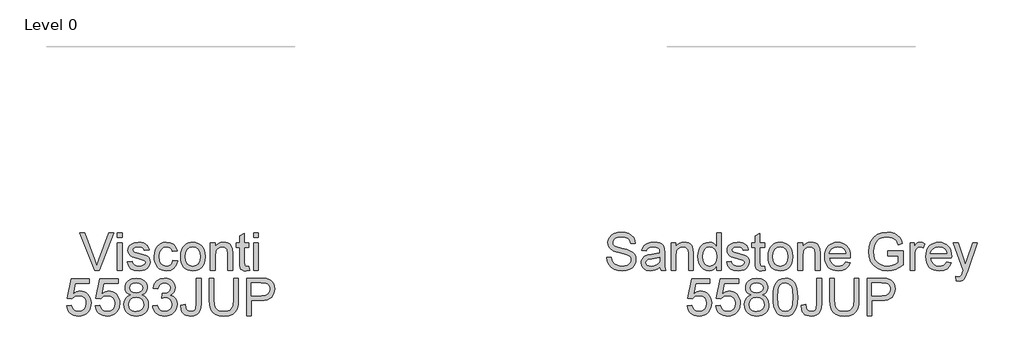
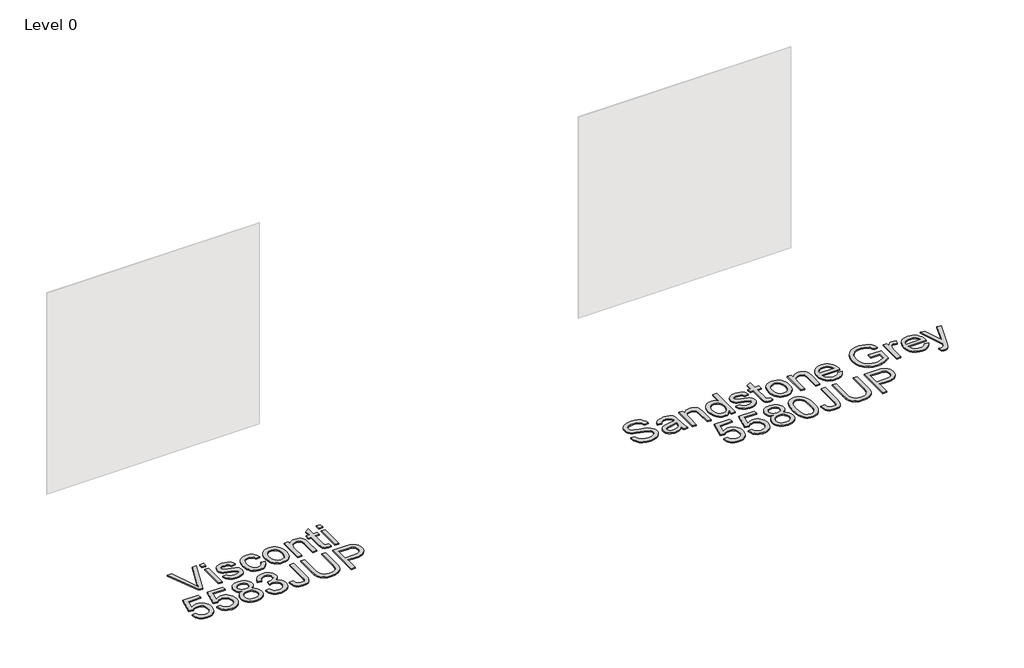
# One storey, part 22 of 29: 2 proxies.
"""IFC4 building model written with IfcOpenShell, lengths in millimetres."""

from ifc_helpers import new_model, si_unit, origin, origin_with_axes, place, context, project, spatial, polyline, outline, extrude, element, save

model = new_model("IFC4")

# Units and contexts
model_context = context("Model", 3, world=origin())
ifc_project = project(units=[si_unit("LENGTHUNIT", "METRE", prefix="MILLI")], contexts=[model_context])

# Site, building, storey
site = spatial("IfcSite", under=ifc_project)
building = spatial("IfcBuilding", under=site)
storey = spatial("IfcBuildingStorey", under=building, Name="Level 0", Elevation=0.0)

# Proxies
placement = place(None, origin())
element("IfcBuildingElementProxy", 1, Name="300mm Arial", ObjectType="300mm Arial", at=placement, inside=storey, context=model_context, shape_type="SweptSolid", body=[
    extrude(outline(polyline([(22063.6872944, -11908.2649241), (22101.3584107, -11908.2649241), (22105.6810241, -11929.1698185), (22113.4985165, -11945.9728286), (22125.6938047, -11959.308551), (22143.1498053, -11969.8115819), (22164.486961, -11976.6265959), (22188.3257143, -11978.8982672), (22209.3133822, -11977.1784189), (22227.6890878, -11972.0188739), (22242.5791116, -11963.8518936), (22253.1097337, -11953.1097394), (22259.3729247, -11940.7764955), (22261.460655, -11927.8362463), (22259.8971565, -11915.2270909), (22255.2066611, -11904.3285868), (22245.6785174, -11895.0303694), (22229.6020742, -11887.222074), (22174.7508687, -11872.837888), (22138.7444184, -11863.3189414), (22115.7058085, -11854.2598472), (22096.9530238, -11841.5863125), (22083.6632867, -11826.2272392), (22075.7446268, -11808.5137211), (22073.1050734, -11788.7768521), (22076.3700262, -11766.7131294), (22086.1648843, -11746.1393289), (22102.2321304, -11728.7017223), (22124.3142472, -11716.0465817), (22150.8201449, -11708.3486509), (22180.158734, -11705.782674), (22211.9437384, -11708.4682126), (22239.7556173, -11716.5248283), (22262.6010892, -11729.7869742), (22279.4868727, -11748.0891034), (22290.1738447, -11770.2907818), (22294.4228817, -11795.2515752), (22256.7517654, -11795.2515752), (22249.8355839, -11772.7739853), (22235.4146097, -11756.5503893), (22212.8818375, -11746.7279401), (22181.630262, -11743.4537903), (22149.6429225, -11746.6911519), (22127.6987615, -11756.4032365), (22115.0068327, -11770.695452), (22110.7761898, -11787.6732061), (22113.774428, -11802.1493626), (22122.7691428, -11813.7928278), (22144.0327221, -11824.2038882), (22184.2790124, -11834.8356779), (22225.8128896, -11844.9340387), (22250.9392299, -11853.7448125), (22272.4143414, -11867.4116286), (22287.3963356, -11884.2790181), (22296.1979124, -11904.1630399), (22299.1317713, -11926.8797531), (22295.756454, -11950.102304), (22285.6305021, -11971.9452975), (22269.1677828, -11990.7440675), (22246.7821634, -12004.8339479), (22219.8623984, -12013.6355246), (22189.7972423, -12016.5693835), (22152.8894812, -12013.4055984), (22122.5116254, -12003.9142429), (22098.3141872, -11988.0585289), (22079.9476786, -11965.8016682), (22068.1570606, -11938.6887651), (22063.6872944, -11908.2649241)])), origin_with_axes(), (0.0, 0.0, 1.0), 10.0),
    extrude(outline(polyline([(22492.1962424, -11983.6071568), (22474.1976157, -11999.0398064), (22455.6655602, -12009.1381672), (22436.1770115, -12014.7115794), (22415.3089054, -12016.5693835), (22383.8274036, -12012.0996173), (22360.6048527, -11998.6903186), (22346.285046, -11978.3280501), (22341.5117771, -11952.9993748), (22343.3143989, -11937.3827841), (22348.7222642, -11923.2009331), (22357.0639885, -11911.0608273), (22367.668187, -11901.5694718), (22394.045326, -11889.2086368), (22426.6396708, -11883.5432541), (22465.1569157, -11877.5835657), (22491.9755132, -11870.5938078), (22492.1962424, -11862.2060983), (22489.6026743, -11845.3938912), (22481.8219701, -11834.3942195), (22464.4211517, -11826.2272392), (22440.1777282, -11823.5049125), (22417.7369265, -11825.3167313), (22402.0651535, -11830.7521878), (22391.3781816, -11840.8045633), (22383.891783, -11856.4671392), (22346.2206667, -11851.7582497), (22352.7597691, -11831.156858), (22362.5178391, -11814.9700502), (22376.4053844, -11802.590821), (22395.332913, -11793.4121652), (22418.4818876, -11787.7283884), (22445.0337706, -11785.8337961), (22470.5004017, -11787.5076592), (22490.6879262, -11792.5292485), (22505.9090437, -11800.0800264), (22516.476454, -11809.3414556), (22523.484606, -11820.7917827), (22528.0279487, -11834.9092543), (22529.8673587, -11867.8714811), (22529.8673587, -11914.7396473), (22531.780345, -11980.1858542), (22539.2851377, -12011.860494), (22501.6140214, -12011.860494), (22492.1962424, -11983.6071568)]), holes=[polyline([(22492.1962424, -11908.2649241), (22431.4221367, -11919.8164188), (22399.011733, -11925.9232599), (22384.3332414, -11935.8560738), (22379.1828934, -11950.3506244), (22381.9879936, -11961.5526311), (22390.4032943, -11970.7312869), (22404.2448544, -11976.8565221), (22423.3287329, -11978.8982672), (22443.5622426, -11976.64499), (22461.4413076, -11969.8851583), (22475.9358582, -11959.9247533), (22486.0158248, -11948.069756), (22490.4855911, -11935.8560738), (22491.9755132, -11918.933502), (22492.1962424, -11908.2649241)])]), origin_with_axes(), (0.0, 0.0, 1.0), 10.0),
    extrude(outline(polyline([(22581.6651436, -12011.860494), (22581.6651436, -11790.5426857), (22619.3362599, -11790.5426857), (22619.3362599, -11821.4447733), (22632.4236619, -11805.8649708), (22648.1414201, -11794.7365404), (22666.4895346, -11788.0594822), (22687.4680054, -11785.8337961), (22706.0368491, -11787.6272209), (22723.0421943, -11793.0074951), (22737.2240452, -11801.303234), (22747.322406, -11811.8430532), (22758.6163833, -11839.5445674), (22760.602946, -11875.964885), (22760.602946, -12011.860494), (22722.9318297, -12011.860494), (22722.9318297, -11881.0416565), (22718.5908222, -11847.7115477), (22712.5851486, -11837.7879309), (22703.250143, -11830.0900002), (22691.2847811, -11825.1511844), (22677.3880387, -11823.5049125), (22655.3243161, -11827.2021265), (22636.5163491, -11838.2937687), (22629.00006, -11847.3482643), (22623.6312822, -11859.7228949), (22619.3362599, -11894.4325611), (22619.3362599, -12011.860494), (22581.6651436, -12011.860494)])), origin_with_axes(), (0.0, 0.0, 1.0), 10.0),
    extrude(outline(polyline([(22948.9585276, -12011.860494), (22948.9585276, -11976.3230932), (22937.6875429, -11993.9308452), (22924.0345224, -12006.507811), (22907.9994659, -12014.0539904), (22889.5823735, -12016.5693835), (22865.2285855, -12012.9273518), (22842.9349366, -12002.0012565), (22824.0625902, -11984.5544529), (22809.9727098, -11961.350296), (22801.1987242, -11933.3268851), (22798.2740623, -11901.422319), (22800.968798, -11869.9132261), (22809.0530048, -11841.4575538), (22822.5174858, -11817.6739828), (22841.353044, -11800.181194), (22864.1341365, -11789.4206456), (22889.4352207, -11785.8337961), (22907.8661087, -11788.3997731), (22924.1632811, -11796.0977038), (22937.97725, -11807.8975188), (22948.9585276, -11822.7691485), (22948.9585276, -11710.4915635), (22986.6296439, -11710.4915635), (22986.6296439, -12011.860494), (22948.9585276, -12011.860494)]), holes=[polyline([(22835.9451786, -11901.2751662), (22840.1942157, -11935.350236), (22852.9413268, -11959.5844625), (22871.4641853, -11974.069816), (22893.0404643, -11978.8982672), (22914.6075463, -11974.2905452), (22932.6613552, -11960.4673793), (22944.8842345, -11937.1712519), (22948.9585276, -11904.1446458), (22944.8106581, -11868.037028), (22932.3670496, -11843.0026582), (22913.8533882, -11828.3793489), (22891.4953599, -11823.5049125), (22869.6983517, -11828.1862108), (22851.8376808, -11842.230106), (22839.9183042, -11866.3539678), (22835.9451786, -11901.2751662)])]), origin_with_axes(), (0.0, 0.0, 1.0), 10.0),
    extrude(outline(polyline([(23029.0096497, -11945.9360404), (23066.680766, -11941.2271509), (23072.6220602, -11957.3403823), (23084.1183726, -11969.1861825), (23101.2432795, -11976.470246), (23124.0703573, -11978.8982672), (23146.6215236, -11976.6725811), (23162.4772376, -11969.9955229), (23171.8582284, -11960.3202265), (23174.9852254, -11949.0998256), (23171.8398343, -11939.4981055), (23162.4036612, -11932.1772538), (23123.6288989, -11921.4350996), (23066.9014952, -11903.0042116), (23052.5449004, -11893.7427824), (23042.1430369, -11881.4831149), (23035.8246637, -11867.0069584), (23033.7185393, -11851.0960621), (23035.4107964, -11836.5003439), (23040.487568, -11823.0266659), (23048.4890014, -11811.2084568), (23058.9552441, -11801.5791455), (23082.904362, -11790.4323211), (23115.3147658, -11785.8337961), (23139.8341008, -11787.6824032), (23161.1528624, -11793.2282242), (23178.2961634, -11801.9286334), (23190.2891164, -11813.2410048), (23198.2353675, -11828.0022698), (23203.2385626, -11847.0493601), (23165.5674463, -11851.7582497), (23160.8125715, -11839.9032524), (23151.4039895, -11830.972917), (23137.2497297, -11825.3719136), (23118.2578217, -11823.5049125), (23096.6263604, -11825.2891401), (23082.2053862, -11830.6418232), (23074.0935882, -11838.3673451), (23071.3896556, -11847.2700893), (23075.8778159, -11858.2329728), (23089.9309081, -11866.5471059), (23122.3781001, -11874.5669334), (23177.670764, -11892.2988455), (23192.2756792, -11900.7785255), (23203.3489272, -11912.3852025), (23210.3294881, -11927.1556646), (23212.6563417, -11945.1267001), (23209.9248179, -11963.7047408), (23201.7302464, -11981.1791356), (23188.3853271, -11996.1795239), (23170.2027595, -12007.3355454), (23148.2402044, -12014.260924), (23123.5553225, -12016.5693835), (23085.5715065, -12012.1180114), (23057.8515981, -11998.763895), (23039.3471338, -11976.654187), (23029.0096497, -11945.9360404)])), origin_with_axes(), (0.0, 0.0, 1.0), 10.0),
    extrude(outline(polyline([(23335.0874697, -11980.4433716), (23339.7963592, -12012.96414), (23311.6165984, -12016.5693835), (23293.5351983, -12015.005885), (23280.0523232, -12010.3153896), (23270.5241795, -12003.0865084), (23264.3069738, -11993.9078526), (23260.8856713, -11978.1441091), (23259.7452371, -11951.1599648), (23259.7452371, -11828.213802), (23231.4918999, -11828.213802), (23231.4918999, -11790.5426857), (23259.7452371, -11790.5426857), (23259.7452371, -11736.758338), (23297.4163534, -11714.6118419), (23297.4163534, -11790.5426857), (23335.0874697, -11790.5426857), (23335.0874697, -11828.213802), (23297.4163534, -11828.213802), (23297.4163534, -11950.0563188), (23299.4029162, -11969.4804881), (23305.8408511, -11976.3598814), (23318.6799327, -11978.8982672), (23335.0874697, -11980.4433716)])), origin_with_axes(), (0.0, 0.0, 1.0), 10.0),
    extrude(outline(polyline([(23363.3408069, -11901.2015898), (23365.3779535, -11872.5389839), (23371.4893931, -11847.8403064), (23381.6751259, -11827.1055575), (23395.9351517, -11810.334737), (23410.2917466, -11799.6155754), (23426.1382635, -11791.9590314), (23443.4747025, -11787.3651049), (23462.3010636, -11785.8337961), (23483.0840971, -11787.698498), (23501.8759693, -11793.2926036), (23518.6766801, -11802.6161129), (23533.4862297, -11815.669026), (23545.5734525, -11832.0098843), (23554.2071831, -11851.1972296), (23559.3874214, -11873.2310619), (23561.1141675, -11898.1113811), (23558.060747, -11936.1687735), (23548.9004853, -11965.1394806), (23533.9000969, -11986.8353213), (23513.3262964, -12003.0681143), (23488.8897348, -12013.1940662), (23462.3010636, -12016.5693835), (23441.2145275, -12014.7115794), (23422.2479114, -12009.1381672), (23405.4012153, -11999.8491468), (23390.6744392, -11986.8445183), (23378.7159751, -11970.3450108), (23370.174215, -11950.5713536), (23365.0491589, -11927.5235466), (23363.3408069, -11901.2015898)]), holes=[polyline([(23401.0119232, -11901.1280134), (23405.3713249, -11935.2214773), (23418.4495298, -11959.5108861), (23438.1312166, -11974.0514219), (23462.3010636, -11978.8982672), (23486.3605461, -11974.0238308), (23506.0054447, -11959.4005215), (23519.0836496, -11934.789216), (23523.4430512, -11899.950791), (23519.0560584, -11866.8506085), (23505.8950801, -11842.8922936), (23486.2225904, -11828.3517577), (23462.3010636, -11823.5049125), (23438.1312166, -11828.3333636), (23418.4495298, -11842.8187172), (23405.3713249, -11867.0529436), (23401.0119232, -11901.1280134)])]), origin_with_axes(), (0.0, 0.0, 1.0), 10.0),
    extrude(outline(polyline([(23603.4941734, -12011.860494), (23603.4941734, -11790.5426857), (23641.1652897, -11790.5426857), (23641.1652897, -11821.4447733), (23654.2526917, -11805.8649708), (23669.9704499, -11794.7365404), (23688.3185644, -11788.0594822), (23709.2970352, -11785.8337961), (23727.8658789, -11787.6272209), (23744.8712241, -11793.0074951), (23759.053075, -11801.303234), (23769.1514358, -11811.8430532), (23780.4454131, -11839.5445674), (23782.4319758, -11875.964885), (23782.4319758, -12011.860494), (23744.7608595, -12011.860494), (23744.7608595, -11881.0416565), (23740.419852, -11847.7115477), (23734.4141784, -11837.7879309), (23725.0791728, -11830.0900002), (23713.1138109, -11825.1511844), (23699.2170685, -11823.5049125), (23677.1533459, -11827.2021265), (23658.3453789, -11838.2937687), (23650.8290898, -11847.3482643), (23645.460312, -11859.7228949), (23641.1652897, -11894.4325611), (23641.1652897, -12011.860494), (23603.4941734, -12011.860494)])), origin_with_axes(), (0.0, 0.0, 1.0), 10.0),
    extrude(outline(polyline([(23989.1816571, -11945.9360404), (24026.1170094, -11950.64493), (24012.8088783, -11978.4752029), (23991.5728901, -11999.2789297), (23962.8872915, -12012.2467701), (23927.2303291, -12016.5693835), (23903.8560269, -12014.7046817), (23883.0293074, -12009.1105761), (23864.7501708, -11999.7870668), (23849.018617, -11986.7341537), (23836.3680749, -11970.3151204), (23827.3319733, -11950.8932503), (23821.9103124, -11928.4685435), (23820.1030921, -11903.0409998), (23821.9287065, -11876.7512327), (23827.4055497, -11853.5792656), (23836.5336218, -11833.5250983), (23849.3129226, -11816.5887309), (23865.0030897, -11803.133447), (23882.8637605, -11793.5225298), (23902.8949352, -11787.7559796), (23925.0966136, -11785.8337961), (23946.5832213, -11787.751381), (23966.0142885, -11793.5041357), (23983.389815, -11803.0920602), (23998.7098008, -11816.5151545), (24011.2154894, -11833.4147337), (24020.1481241, -11853.4321128), (24025.5077049, -11876.5672917), (24027.2942318, -11902.8202706), (24027.0735026, -11912.9738137), (23857.7742084, -11912.9738137), (23864.2949168, -11941.1719686), (23879.442458, -11961.902119), (23901.3038455, -11974.6492302), (23927.9660931, -11978.8982672), (23948.0156619, -11976.9300985), (23964.9014454, -11971.0255925), (23978.6234439, -11960.8168672), (23989.1816571, -11945.9360404)]), holes=[polyline([(23857.7742084, -11875.3026974), (23989.6231155, -11875.3026974), (23984.5279499, -11855.4002814), (23974.5399537, -11841.1632482), (23952.5773986, -11827.9194964), (23924.9494608, -11823.5049125), (23899.5564061, -11827.0273826), (23878.5595412, -11837.5947929), (23863.963823, -11854.0667092), (23857.7742084, -11875.3026974)])]), origin_with_axes(), (0.0, 0.0, 1.0), 10.0),
    extrude(outline(polyline([(24328.6631623, -11894.1382555), (24328.6631623, -11856.4671392), (24451.0942903, -11856.4671392), (24451.0942903, -11969.1126061), (24421.3418339, -11989.8059684), (24390.6512785, -12004.6500069), (24359.0962003, -12013.5895394), (24326.7501759, -12016.5693835), (24284.4897317, -12011.8329028), (24246.2943836, -11997.6234608), (24214.5645615, -11974.437698), (24191.7006955, -11942.7722553), (24177.8775295, -11904.7884393), (24173.2698075, -11862.6475567), (24177.8591354, -11820.2031715), (24191.6271191, -11780.7202364), (24214.0035414, -11747.6016598), (24244.4181854, -11724.2503502), (24281.4639023, -11710.399593), (24323.7335435, -11705.782674), (24354.7643898, -11708.4590155), (24382.6682392, -11716.4880401), (24406.1667016, -11729.2903335), (24423.9813872, -11746.2864817), (24437.1607597, -11768.295022), (24446.7532827, -11796.134492), (24412.0252224, -11805.9201531), (24404.2721093, -11786.0637224), (24394.8451332, -11771.0817281), (24382.3739336, -11759.7877509), (24365.48815, -11750.9953712), (24345.3558078, -11745.3391855), (24323.1449323, -11743.4537903), (24297.1448723, -11745.4863383), (24274.9156028, -11751.5839824), (24256.5398971, -11760.9833674), (24242.1005288, -11772.9211381), (24222.7131477, -11801.9470275), (24213.8839798, -11830.3843058), (24210.9409238, -11861.1024524), (24214.481788, -11897.1272967), (24225.1043806, -11926.7693885), (24242.4868049, -11949.8171955), (24266.3071641, -11966.0591856), (24294.1834223, -11975.6884968), (24323.7335435, -11978.8982672), (24349.825574, -11976.4794431), (24375.2738111, -11969.2229707), (24397.3743219, -11959.2257775), (24413.423174, -11948.5847908), (24413.423174, -11894.1382555), (24328.6631623, -11894.1382555)])), origin_with_axes(), (0.0, 0.0, 1.0), 10.0),
    extrude(outline(polyline([(24507.6009647, -12011.860494), (24507.6009647, -11790.5426857), (24540.5631915, -11790.5426857), (24540.5631915, -11823.2841833), (24552.7400855, -11804.3014723), (24563.9604864, -11793.1178596), (24575.2176754, -11787.654812), (24587.5049341, -11785.8337961), (24606.2669158, -11788.7400639), (24625.3232032, -11797.4588672), (24612.741639, -11831.2304343), (24599.4978871, -11825.4362929), (24586.2541353, -11823.5049125), (24575.0061433, -11825.3627165), (24564.9537678, -11830.9361288), (24556.8327727, -11839.8020848), (24551.3789222, -11851.5375205), (24546.7987913, -11872.5803706), (24545.272081, -11895.5362071), (24545.272081, -12011.860494), (24507.6009647, -12011.860494)])), origin_with_axes(), (0.0, 0.0, 1.0), 10.0),
    extrude(outline(polyline([(24803.8195472, -11945.9360404), (24840.7548996, -11950.64493), (24827.4467684, -11978.4752029), (24806.2107802, -11999.2789297), (24777.5251816, -12012.2467701), (24741.8682193, -12016.5693835), (24718.493917, -12014.7046817), (24697.6671975, -12009.1105761), (24679.3880609, -11999.7870668), (24663.6565071, -11986.7341537), (24651.005965, -11970.3151204), (24641.9698635, -11950.8932503), (24636.5482026, -11928.4685435), (24634.7409823, -11903.0409998), (24636.5665967, -11876.7512327), (24642.0434399, -11853.5792656), (24651.1715119, -11833.5250983), (24663.9508127, -11816.5887309), (24679.6409798, -11803.133447), (24697.5016506, -11793.5225298), (24717.5328253, -11787.7559796), (24739.7345037, -11785.8337961), (24761.2211115, -11787.751381), (24780.6521786, -11793.5041357), (24798.0277051, -11803.0920602), (24813.3476909, -11816.5151545), (24825.8533795, -11833.4147337), (24834.7860142, -11853.4321128), (24840.145595, -11876.5672917), (24841.9321219, -11902.8202706), (24841.7113927, -11912.9738137), (24672.4120986, -11912.9738137), (24678.9328069, -11941.1719686), (24694.0803481, -11961.902119), (24715.9417356, -11974.6492302), (24742.6039832, -11978.8982672), (24762.653552, -11976.9300985), (24779.5393356, -11971.0255925), (24793.261334, -11960.8168672), (24803.8195472, -11945.9360404)]), holes=[polyline([(24672.4120986, -11875.3026974), (24804.2610056, -11875.3026974), (24799.16584, -11855.4002814), (24789.1778438, -11841.1632482), (24767.2152887, -11827.9194964), (24739.5873509, -11823.5049125), (24714.1942962, -11827.0273826), (24693.1974313, -11837.5947929), (24678.6017131, -11854.0667092), (24672.4120986, -11875.3026974)])]), origin_with_axes(), (0.0, 0.0, 1.0), 10.0),
    extrude(outline(polyline([(24879.6032383, -12096.6205057), (24874.8943487, -12060.3473409), (24894.0242125, -12063.6582789), (24911.9032774, -12059.5012124), (24922.8661609, -12047.9129295), (24933.1668567, -12020.1746271), (24936.1099127, -12011.0511536), (24856.0587906, -11790.5426857), (24895.790046, -11790.5426857), (24938.2436283, -11913.4152721), (24953.0324845, -11962.5643066), (24967.8213407, -11919.1542312), (25011.4521453, -11790.5426857), (25050.8890952, -11790.5426857), (24973.8546054, -12017.1579947), (24953.8418249, -12066.3070293), (24943.5963113, -12081.9971964), (24931.9896344, -12092.8681093), (24918.5067592, -12099.2140737), (24902.6326511, -12101.3293952), (24879.6032383, -12096.6205057)])), origin_with_axes(), (0.0, 0.0, 1.0), 10.0),
    extrude(outline(polyline([(22711.1596059, -12297.7338254), (22748.8307222, -12293.0249358), (22755.7469037, -12315.6404815), (22767.8134331, -12331.8364863), (22784.9751282, -12341.5761621), (22807.1768066, -12344.8227207), (22834.1793451, -12340.3069693), (22854.4128548, -12326.7597148), (22867.0496013, -12305.7444558), (22871.2618502, -12278.8246908), (22867.3163158, -12253.4776213), (22855.4797126, -12234.0902402), (22835.6600701, -12221.7845875), (22807.7654178, -12217.6827032), (22789.4908797, -12219.3197781), (22774.6928264, -12224.2310027), (22753.5396117, -12241.2271509), (22715.8684954, -12236.5182614), (22748.8307222, -12081.1249066), (22894.8062979, -12081.1249066), (22894.8062979, -12118.7960229), (22779.2913514, -12118.7960229), (22763.17812, -12201.790201), (22790.0886879, -12185.4562404), (22818.2868429, -12180.0115869), (22836.6326581, -12181.6992456), (22853.4839528, -12186.7622215), (22868.8407268, -12195.2005148), (22882.7029802, -12207.0141254), (22894.1785992, -12221.4810848), (22902.3754699, -12237.8794248), (22907.2935923, -12256.2091452), (22908.9329665, -12276.470246), (22903.0284605, -12314.1413624), (22895.6478279, -12330.9351754), (22885.3149424, -12346.3678251), (22869.6615635, -12362.1729553), (22851.3962224, -12373.4623341), (22830.5189192, -12380.2359613), (22807.0296538, -12382.4938371), (22770.0299222, -12376.6904986), (22754.3512514, -12369.4363255), (22740.5533773, -12359.2804832), (22729.0731598, -12346.7288093), (22720.3474587, -12332.2871418), (22711.1596059, -12297.7338254)])), origin_with_axes(), (0.0, 0.0, 1.0), 10.0),
    extrude(outline(polyline([(22941.8951933, -12297.7338254), (22979.5663096, -12293.0249358), (22986.4824911, -12315.6404815), (22998.5490205, -12331.8364863), (23015.7107156, -12341.5761621), (23037.912394, -12344.8227207), (23064.9149324, -12340.3069693), (23085.1484422, -12326.7597148), (23097.7851887, -12305.7444558), (23101.9974376, -12278.8246908), (23098.0519032, -12253.4776213), (23086.2153, -12234.0902402), (23066.3956575, -12221.7845875), (23038.5010052, -12217.6827032), (23020.2264671, -12219.3197781), (23005.4284138, -12224.2310027), (22984.2751991, -12241.2271509), (22946.6040828, -12236.5182614), (22979.5663096, -12081.1249066), (23125.5418852, -12081.1249066), (23125.5418852, -12118.7960229), (23010.0269388, -12118.7960229), (22993.9137074, -12201.790201), (23020.8242753, -12185.4562404), (23049.0224303, -12180.0115869), (23067.3682455, -12181.6992456), (23084.2195401, -12186.7622215), (23099.5763142, -12195.2005148), (23113.4385676, -12207.0141254), (23124.9141866, -12221.4810848), (23133.1110573, -12237.8794248), (23138.0291797, -12256.2091452), (23139.6685539, -12276.470246), (23133.7640478, -12314.1413624), (23126.3834153, -12330.9351754), (23116.0505298, -12346.3678251), (23100.3971509, -12362.1729553), (23082.1318098, -12373.4623341), (23061.2545066, -12380.2359613), (23037.7652412, -12382.4938371), (23000.7655095, -12376.6904986), (22985.0868388, -12369.4363255), (22971.2889647, -12359.2804832), (22959.8087472, -12346.7288093), (22951.0830461, -12332.2871418), (22941.8951933, -12297.7338254)])), origin_with_axes(), (0.0, 0.0, 1.0), 10.0),
    extrude(outline(polyline([(23227.5187743, -12211.7965913), (23207.3496439, -12201.8637774), (23193.1953842, -12188.3992964), (23184.8352658, -12171.6790597), (23182.0485597, -12151.9789789), (23183.5660729, -12136.6153071), (23188.1186126, -12122.5300252), (23195.7061788, -12109.7231332), (23206.3287714, -12098.1946312), (23219.4759542, -12088.6664875), (23234.6372909, -12081.8606706), (23271.0024261, -12076.4160171), (23307.5882906, -12081.9894293), (23322.9151742, -12088.9561946), (23336.2646921, -12098.709666), (23347.0804227, -12110.4634957), (23354.8059446, -12123.4313361), (23359.4412578, -12137.613187), (23360.9863622, -12153.0090485), (23358.2364442, -12172.0745329), (23349.9866905, -12188.509661), (23336.1451304, -12201.8913686), (23316.6197935, -12211.7965913), (23339.8055563, -12223.7435591), (23356.6821428, -12241.3375155), (23366.9736416, -12263.732332), (23370.4041412, -12290.0818799), (23368.702687, -12308.8714528), (23363.5983243, -12326.0975272), (23355.0910532, -12341.7601031), (23343.1808736, -12355.8591806), (23328.4931849, -12367.5118428), (23311.6533866, -12375.8351729), (23292.6614786, -12380.829171), (23271.5174609, -12382.4938371), (23250.3734433, -12380.8222732), (23231.3815353, -12375.8075818), (23214.5417369, -12367.4497627), (23199.8540483, -12355.748816), (23187.9438687, -12341.5508703), (23179.4365975, -12325.7020541), (23174.3322349, -12308.2023674), (23172.6307806, -12289.0518103), (23176.199236, -12261.6813898), (23186.904602, -12239.1670117), (23204.1950558, -12222.2812282), (23227.5187743, -12211.7965913)]), holes=[polyline([(23219.719676, -12153.0826249), (23223.0582051, -12169.52695), (23233.0737924, -12182.6603373), (23249.4721324, -12191.268776), (23271.9589193, -12194.1382555), (23293.9214744, -12191.2871701), (23310.071494, -12182.7339137), (23320.0043079, -12170.0419848), (23323.3152459, -12154.774882), (23319.8939433, -12138.9283651), (23309.6300356, -12125.822569), (23293.2592868, -12117.0209923), (23271.5174609, -12114.0871334), (23249.6376793, -12116.9566129), (23233.2945216, -12125.5650516), (23223.1133874, -12138.1834041), (23219.719676, -12153.0826249)]), polyline([(23210.3018969, -12287.7274351), (23216.5926791, -12316.0911369), (23225.3022853, -12328.2588339), (23238.8495398, -12337.317928), (23255.0731358, -12342.9465226), (23271.8117665, -12344.8227207), (23297.4531416, -12340.8771864), (23316.6933699, -12329.0405832), (23328.7231112, -12311.1155329), (23332.7330249, -12288.9046575), (23328.5943525, -12266.316703), (23316.1783351, -12247.9961796), (23296.4966484, -12235.8560738), (23270.5609677, -12231.8093718), (23245.2782776, -12235.8008915), (23226.2311873, -12247.7754504), (23214.2842195, -12265.7464859), (23210.3018969, -12287.7274351)])]), origin_with_axes(), (0.0, 0.0, 1.0), 10.0),
    extrude(outline(polyline([(23403.366368, -12229.5285035), (23406.13468, -12181.2899768), (23414.4396161, -12142.8187172), (23428.1984027, -12113.5261133), (23447.3282664, -12092.8235541), (23471.9671631, -12080.5179013), (23502.2530483, -12076.4160171), (23525.4664022, -12078.8440382), (23546.2517349, -12086.1281017), (23563.6341592, -12097.983099), (23576.6387877, -12114.1239216), (23586.461237, -12134.4126136), (23594.2971235, -12158.7112194), (23599.4290773, -12189.5673217), (23601.1397286, -12229.5285035), (23598.3990077, -12277.4911186), (23590.1768452, -12315.8704077), (23576.500832, -12345.1906027), (23557.3985594, -12365.9759355), (23532.7044805, -12378.3643617), (23502.2530483, -12382.4938371), (23481.5045038, -12380.7004123), (23463.110404, -12375.3201381), (23447.070749, -12366.3530145), (23433.3855388, -12353.7990414), (23420.2521516, -12331.1053209), (23410.8711607, -12302.828991), (23405.2425662, -12268.9700519), (23403.366368, -12229.5285035)]), holes=[polyline([(23441.0374843, -12229.4549271), (23445.4520683, -12288.7115194), (23450.9702982, -12308.9795181), (23458.6958201, -12323.0073184), (23478.414295, -12339.3688702), (23502.2530483, -12344.8227207), (23526.0918016, -12339.3504761), (23545.8102765, -12322.933742), (23553.5357984, -12308.8829491), (23559.0540284, -12288.6195489), (23563.4686123, -12229.4549271), (23559.2011812, -12171.5319069), (23553.8668922, -12151.3305869), (23546.3988877, -12136.9693935), (23526.717201, -12119.8076984), (23501.8115899, -12114.0871334), (23478.230354, -12119.1271167), (23459.2844313, -12134.2470667), (23451.301392, -12149.8820515), (23445.5992211, -12170.9616898), (23441.0374843, -12229.4549271)])]), origin_with_axes(), (0.0, 0.0, 1.0), 10.0),
    extrude(outline(polyline([(23629.3930658, -12293.1720886), (23667.0641821, -12288.3160463), (23670.9821254, -12315.7048608), (23679.940052, -12332.8297677), (23693.6252622, -12341.8244825), (23711.7250564, -12344.8227207), (23725.6401928, -12343.1212665), (23737.5135842, -12338.0169038), (23746.6738459, -12329.9786822), (23752.4495932, -12319.4756513), (23756.5330834, -12282.1356288), (23756.5330834, -12076.4160171), (23794.2041997, -12076.4160171), (23794.2041997, -12281.4734412), (23791.9325284, -12315.0150821), (23785.1175144, -12340.0034666), (23773.3636847, -12358.2596106), (23756.275566, -12371.60453), (23734.8188486, -12379.7715103), (23709.9592228, -12382.4938371), (23675.1391919, -12376.8744396), (23661.1918658, -12369.8501927), (23649.5529992, -12360.0162472), (23640.4295257, -12347.409391), (23634.028379, -12332.0664126), (23629.3930658, -12293.1720886)])), origin_with_axes(), (0.0, 0.0, 1.0), 10.0),
    extrude(outline(polyline([(24057.9020138, -12076.4160171), (24095.5731301, -12076.4160171), (24095.5731301, -12250.277048), (24093.0163503, -12290.9923878), (24085.3460107, -12322.3451308), (24071.017007, -12346.533372), (24048.4842347, -12365.7552063), (24017.6925118, -12378.3091794), (23978.5866557, -12382.4938371), (23940.3361252, -12378.8518053), (23909.7559344, -12367.92571), (23886.8368861, -12350.0926303), (23871.5697833, -12325.7296452), (23862.9889357, -12293.052527), (23860.1286532, -12250.277048), (23860.1286532, -12076.4160171), (23897.7997695, -12076.4160171), (23897.7997695, -12248.9526728), (23899.6575736, -12282.8070134), (23905.2309858, -12306.3790523), (23915.3293466, -12322.7038158), (23930.7619963, -12334.8163305), (23950.8851414, -12342.3211232), (23975.0549885, -12344.8227207), (24013.3698983, -12339.8747079), (24027.7126976, -12333.6896919), (24038.8457265, -12325.0306694), (24047.1828522, -12312.8537754), (24053.137942, -12296.1151446), (24057.9020138, -12248.9526728), (24057.9020138, -12076.4160171)])), origin_with_axes(), (0.0, 0.0, 1.0), 10.0),
    extrude(outline(polyline([(24161.4975837, -12377.7849475), (24161.4975837, -12076.4160171), (24273.1865574, -12076.4160171), (24318.2153136, -12079.2854966), (24338.2924735, -12084.6473767), (24354.8195721, -12093.375377), (24368.1277033, -12105.8649708), (24378.5479608, -12122.5116311), (24385.2802013, -12142.1473326), (24387.5242815, -12163.6040499), (24386.0090675, -12182.1039158), (24381.4634256, -12199.1230566), (24373.8873558, -12214.6614723), (24363.280858, -12228.7191631), (24348.7196288, -12240.3718253), (24329.2793646, -12248.6951554), (24304.9600655, -12253.6891535), (24275.7617314, -12255.3538195), (24199.1687, -12255.3538195), (24199.1687, -12377.7849475), (24161.4975837, -12377.7849475)]), holes=[polyline([(24199.1687, -12217.6827032), (24277.9690233, -12217.6827032), (24311.3727085, -12214.2246125), (24333.4456282, -12203.8503402), (24345.751281, -12187.2036799), (24349.8531652, -12164.9284251), (24347.4343411, -12148.0058533), (24340.1778687, -12133.7320319), (24328.985059, -12122.9898777), (24314.7572229, -12116.6623073), (24277.0861066, -12114.0871334), (24199.1687, -12114.0871334), (24199.1687, -12217.6827032)])]), origin_with_axes(), (0.0, 0.0, 1.0), 10.0),
])
element("IfcBuildingElementProxy", 2, Name="300mm Arial", ObjectType="300mm Arial", at=placement, inside=storey, context=model_context, shape_type="SweptSolid", body=[
    extrude(outline(polyline([(17936.7448453, -12011.860494), (17816.8153149, -11710.4915635), (17857.1351816, -11710.4915635), (17937.4070329, -11927.6155171), (17953.6674171, -11976.5438224), (17969.7070721, -11927.6155171), (18050.1996526, -11710.4915635), (18090.5195193, -11710.4915635), (17975.6667604, -12011.860494), (17936.7448453, -12011.860494)])), origin_with_axes(), (0.0, 0.0, 1.0), 10.0),
    extrude(outline(polyline([(18120.8329957, -12011.860494), (18120.8329957, -11790.5426857), (18158.504112, -11790.5426857), (18158.504112, -12011.860494), (18120.8329957, -12011.860494)])), origin_with_axes(), (0.0, 0.0, 1.0), 10.0),
    extrude(outline(polyline([(18120.8329957, -11748.1626798), (18120.8329957, -11710.4915635), (18158.504112, -11710.4915635), (18158.504112, -11748.1626798), (18120.8329957, -11748.1626798)])), origin_with_axes(), (0.0, 0.0, 1.0), 10.0),
    extrude(outline(polyline([(18200.8841179, -11945.9360404), (18238.5552342, -11941.2271509), (18244.4965284, -11957.3403823), (18255.9928407, -11969.1861825), (18273.1177476, -11976.470246), (18295.9448254, -11978.8982672), (18318.4959917, -11976.6725811), (18334.3517057, -11969.9955229), (18343.7326966, -11960.3202265), (18346.8596935, -11949.0998256), (18343.7143025, -11939.4981055), (18334.2781293, -11932.1772538), (18295.503367, -11921.4350996), (18238.7759634, -11903.0042116), (18224.4193685, -11893.7427824), (18214.0175051, -11881.4831149), (18207.6991318, -11867.0069584), (18205.5930074, -11851.0960621), (18207.2852646, -11836.5003439), (18212.3620361, -11823.0266659), (18220.3634695, -11811.2084568), (18230.8297123, -11801.5791455), (18254.7788302, -11790.4323211), (18287.1892339, -11785.8337961), (18311.7085689, -11787.6824032), (18333.0273305, -11793.2282242), (18350.1706315, -11801.9286334), (18362.1635845, -11813.2410048), (18370.1098356, -11828.0022698), (18375.1130308, -11847.0493601), (18337.4419145, -11851.7582497), (18332.6870397, -11839.9032524), (18323.2784577, -11830.972917), (18309.1241979, -11825.3719136), (18290.1322899, -11823.5049125), (18268.5008286, -11825.2891401), (18254.0798544, -11830.6418232), (18245.9680564, -11838.3673451), (18243.2641237, -11847.2700893), (18247.752284, -11858.2329728), (18261.8053763, -11866.5471059), (18294.2525682, -11874.5669334), (18349.5452321, -11892.2988455), (18364.1501473, -11900.7785255), (18375.2233954, -11912.3852025), (18382.2039562, -11927.1556646), (18384.5308099, -11945.1267001), (18381.799286, -11963.7047408), (18373.6047146, -11981.1791356), (18360.2597952, -11996.1795239), (18342.0772276, -12007.3355454), (18320.1146725, -12014.260924), (18295.4297906, -12016.5693835), (18257.4459746, -12012.1180114), (18229.7260663, -11998.763895), (18211.2216019, -11976.654187), (18200.8841179, -11945.9360404)])), origin_with_axes(), (0.0, 0.0, 1.0), 10.0),
    extrude(outline(polyline([(18568.1775018, -11931.8093718), (18605.8486182, -11936.5182614), (18595.3455872, -11970.0231141), (18575.6087181, -11995.3425924), (18548.4958151, -12011.2626857), (18515.8646821, -12016.5693835), (18494.7367593, -12014.7184772), (18475.7931358, -12009.1657584), (18459.0338117, -11999.9112269), (18444.4587869, -11986.9548829), (18432.6612711, -11970.5404481), (18424.2344742, -11950.9116444), (18419.178396, -11928.0684718), (18417.4930366, -11902.0109302), (18420.3717132, -11868.4876834), (18429.0077431, -11839.4342028), (18443.5390819, -11815.9725286), (18464.1036854, -11799.2247008), (18488.7057938, -11789.1815223), (18515.3496473, -11785.8337961), (18547.180637, -11790.4323211), (18572.628874, -11804.2278959), (18590.885018, -11826.4847566), (18601.1397286, -11856.4671392), (18563.4686123, -11861.1760288), (18556.6352042, -11844.7409006), (18545.9942175, -11832.9594797), (18532.1342634, -11825.8685543), (18515.6439529, -11823.5049125), (18491.2993619, -11828.1586197), (18471.9763601, -11842.1197414), (18459.3672047, -11866.1424357), (18455.1641529, -11900.9808606), (18459.2752342, -11936.2883351), (18471.6084781, -11960.3938029), (18490.581992, -11974.2721511), (18514.6138833, -11978.8982672), (18534.1208261, -11976.0103936), (18550.1144959, -11967.3467726), (18561.748764, -11952.6866751), (18568.1775018, -11931.8093718)])), origin_with_axes(), (0.0, 0.0, 1.0), 10.0),
    extrude(outline(polyline([(18629.3930658, -11901.2015898), (18631.4302124, -11872.5389839), (18637.541652, -11847.8403064), (18647.7273848, -11827.1055575), (18661.9874106, -11810.334737), (18676.3440055, -11799.6155754), (18692.1905224, -11791.9590314), (18709.5269614, -11787.3651049), (18728.3533225, -11785.8337961), (18749.136356, -11787.698498), (18767.9282282, -11793.2926036), (18784.728939, -11802.6161129), (18799.5384886, -11815.669026), (18811.6257114, -11832.0098843), (18820.259442, -11851.1972296), (18825.4396803, -11873.2310619), (18827.1664264, -11898.1113811), (18824.1130059, -11936.1687735), (18814.9527442, -11965.1394806), (18799.9523559, -11986.8353213), (18779.3785553, -12003.0681143), (18754.9419937, -12013.1940662), (18728.3533225, -12016.5693835), (18707.2667864, -12014.7115794), (18688.3001703, -12009.1381672), (18671.4534742, -11999.8491468), (18656.7266981, -11986.8445183), (18644.768234, -11970.3450108), (18636.2264739, -11950.5713536), (18631.1014179, -11927.5235466), (18629.3930658, -11901.2015898)]), holes=[polyline([(18667.0641821, -11901.1280134), (18671.4235838, -11935.2214773), (18684.5017887, -11959.5108861), (18704.1834755, -11974.0514219), (18728.3533225, -11978.8982672), (18752.412805, -11974.0238308), (18772.0577036, -11959.4005215), (18785.1359085, -11934.789216), (18789.4953101, -11899.950791), (18785.1083174, -11866.8506085), (18771.947339, -11842.8922936), (18752.2748493, -11828.3517577), (18728.3533225, -11823.5049125), (18704.1834755, -11828.3333636), (18684.5017887, -11842.8187172), (18671.4235838, -11867.0529436), (18667.0641821, -11901.1280134)])]), origin_with_axes(), (0.0, 0.0, 1.0), 10.0),
    extrude(outline(polyline([(18869.5464323, -12011.860494), (18869.5464323, -11790.5426857), (18907.2175486, -11790.5426857), (18907.2175486, -11821.4447733), (18920.3049506, -11805.8649708), (18936.0227088, -11794.7365404), (18954.3708233, -11788.0594822), (18975.3492941, -11785.8337961), (18993.9181378, -11787.6272209), (19010.923483, -11793.0074951), (19025.105334, -11801.303234), (19035.2036947, -11811.8430532), (19046.497672, -11839.5445674), (19048.4842347, -11875.964885), (19048.4842347, -12011.860494), (19010.8131184, -12011.860494), (19010.8131184, -11881.0416565), (19006.4721109, -11847.7115477), (19000.4664373, -11837.7879309), (18991.1314317, -11830.0900002), (18979.1660698, -11825.1511844), (18965.2693274, -11823.5049125), (18943.2056048, -11827.2021265), (18924.3976378, -11838.2937687), (18916.8813488, -11847.3482643), (18911.5125709, -11859.7228949), (18907.2175486, -11894.4325611), (18907.2175486, -12011.860494), (18869.5464323, -12011.860494)])), origin_with_axes(), (0.0, 0.0, 1.0), 10.0),
    extrude(outline(polyline([(19180.3331418, -11980.4433716), (19185.0420314, -12012.96414), (19156.8622705, -12016.5693835), (19138.7808705, -12015.005885), (19125.2979953, -12010.3153896), (19115.7698517, -12003.0865084), (19109.5526459, -11993.9078526), (19106.1313434, -11978.1441091), (19104.9909092, -11951.1599648), (19104.9909092, -11828.213802), (19076.737572, -11828.213802), (19076.737572, -11790.5426857), (19104.9909092, -11790.5426857), (19104.9909092, -11736.758338), (19142.6620255, -11714.6118419), (19142.6620255, -11790.5426857), (19180.3331418, -11790.5426857), (19180.3331418, -11828.213802), (19142.6620255, -11828.213802), (19142.6620255, -11950.0563188), (19144.6485883, -11969.4804881), (19151.0865232, -11976.3598814), (19163.9256048, -11978.8982672), (19180.3331418, -11980.4433716)])), origin_with_axes(), (0.0, 0.0, 1.0), 10.0),
    extrude(outline(polyline([(19218.0042581, -11748.1626798), (19218.0042581, -11710.4915635), (19255.6753744, -11710.4915635), (19255.6753744, -11748.1626798), (19218.0042581, -11748.1626798)])), origin_with_axes(), (0.0, 0.0, 1.0), 10.0),
    extrude(outline(polyline([(19218.0042581, -12011.860494), (19218.0042581, -11790.5426857), (19255.6753744, -11790.5426857), (19255.6753744, -12011.860494), (19218.0042581, -12011.860494)])), origin_with_axes(), (0.0, 0.0, 1.0), 10.0),
    extrude(outline(polyline([(17711.1596059, -12297.7338254), (17748.8307222, -12293.0249358), (17755.7469037, -12315.6404815), (17767.8134331, -12331.8364863), (17784.9751282, -12341.5761621), (17807.1768066, -12344.8227207), (17834.1793451, -12340.3069693), (17854.4128548, -12326.7597148), (17867.0496013, -12305.7444558), (17871.2618502, -12278.8246908), (17867.3163158, -12253.4776213), (17855.4797126, -12234.0902402), (17835.6600701, -12221.7845875), (17807.7654178, -12217.6827032), (17789.4908797, -12219.3197781), (17774.6928264, -12224.2310027), (17753.5396117, -12241.2271509), (17715.8684954, -12236.5182614), (17748.8307222, -12081.1249066), (17894.8062979, -12081.1249066), (17894.8062979, -12118.7960229), (17779.2913514, -12118.7960229), (17763.17812, -12201.790201), (17790.0886879, -12185.4562404), (17818.2868429, -12180.0115869), (17836.6326581, -12181.6992456), (17853.4839528, -12186.7622215), (17868.8407268, -12195.2005148), (17882.7029802, -12207.0141254), (17894.1785992, -12221.4810848), (17902.3754699, -12237.8794248), (17907.2935923, -12256.2091452), (17908.9329665, -12276.470246), (17903.0284605, -12314.1413624), (17895.6478279, -12330.9351754), (17885.3149424, -12346.3678251), (17869.6615635, -12362.1729553), (17851.3962224, -12373.4623341), (17830.5189192, -12380.2359613), (17807.0296538, -12382.4938371), (17770.0299222, -12376.6904986), (17754.3512514, -12369.4363255), (17740.5533773, -12359.2804832), (17729.0731598, -12346.7288093), (17720.3474587, -12332.2871418), (17711.1596059, -12297.7338254)])), origin_with_axes(), (0.0, 0.0, 1.0), 10.0),
    extrude(outline(polyline([(17941.8951933, -12297.7338254), (17979.5663096, -12293.0249358), (17986.4824911, -12315.6404815), (17998.5490205, -12331.8364863), (18015.7107156, -12341.5761621), (18037.912394, -12344.8227207), (18064.9149324, -12340.3069693), (18085.1484422, -12326.7597148), (18097.7851887, -12305.7444558), (18101.9974376, -12278.8246908), (18098.0519032, -12253.4776213), (18086.2153, -12234.0902402), (18066.3956575, -12221.7845875), (18038.5010052, -12217.6827032), (18020.2264671, -12219.3197781), (18005.4284138, -12224.2310027), (17984.2751991, -12241.2271509), (17946.6040828, -12236.5182614), (17979.5663096, -12081.1249066), (18125.5418852, -12081.1249066), (18125.5418852, -12118.7960229), (18010.0269388, -12118.7960229), (17993.9137074, -12201.790201), (18020.8242753, -12185.4562404), (18049.0224303, -12180.0115869), (18067.3682455, -12181.6992456), (18084.2195401, -12186.7622215), (18099.5763142, -12195.2005148), (18113.4385676, -12207.0141254), (18124.9141866, -12221.4810848), (18133.1110573, -12237.8794248), (18138.0291797, -12256.2091452), (18139.6685539, -12276.470246), (18133.7640478, -12314.1413624), (18126.3834153, -12330.9351754), (18116.0505298, -12346.3678251), (18100.3971509, -12362.1729553), (18082.1318098, -12373.4623341), (18061.2545066, -12380.2359613), (18037.7652412, -12382.4938371), (18000.7655095, -12376.6904986), (17985.0868388, -12369.4363255), (17971.2889647, -12359.2804832), (17959.8087472, -12346.7288093), (17951.0830461, -12332.2871418), (17941.8951933, -12297.7338254)])), origin_with_axes(), (0.0, 0.0, 1.0), 10.0),
    extrude(outline(polyline([(18227.5187743, -12211.7965913), (18207.3496439, -12201.8637774), (18193.1953842, -12188.3992964), (18184.8352658, -12171.6790597), (18182.0485597, -12151.9789789), (18183.5660729, -12136.6153071), (18188.1186126, -12122.5300252), (18195.7061788, -12109.7231332), (18206.3287714, -12098.1946312), (18219.4759542, -12088.6664875), (18234.6372909, -12081.8606706), (18271.0024261, -12076.4160171), (18307.5882906, -12081.9894293), (18322.9151742, -12088.9561946), (18336.2646921, -12098.709666), (18347.0804227, -12110.4634957), (18354.8059446, -12123.4313361), (18359.4412578, -12137.613187), (18360.9863622, -12153.0090485), (18358.2364442, -12172.0745329), (18349.9866905, -12188.509661), (18336.1451304, -12201.8913686), (18316.6197935, -12211.7965913), (18339.8055563, -12223.7435591), (18356.6821428, -12241.3375155), (18366.9736416, -12263.732332), (18370.4041412, -12290.0818799), (18368.702687, -12308.8714528), (18363.5983243, -12326.0975272), (18355.0910532, -12341.7601031), (18343.1808736, -12355.8591806), (18328.4931849, -12367.5118428), (18311.6533866, -12375.8351729), (18292.6614786, -12380.829171), (18271.5174609, -12382.4938371), (18250.3734433, -12380.8222732), (18231.3815353, -12375.8075818), (18214.5417369, -12367.4497627), (18199.8540483, -12355.748816), (18187.9438687, -12341.5508703), (18179.4365975, -12325.7020541), (18174.3322349, -12308.2023674), (18172.6307806, -12289.0518103), (18176.199236, -12261.6813898), (18186.904602, -12239.1670117), (18204.1950558, -12222.2812282), (18227.5187743, -12211.7965913)]), holes=[polyline([(18210.3018969, -12287.7274351), (18216.5926791, -12316.0911369), (18225.3022853, -12328.2588339), (18238.8495398, -12337.317928), (18255.0731358, -12342.9465226), (18271.8117665, -12344.8227207), (18297.4531416, -12340.8771864), (18316.6933699, -12329.0405832), (18328.7231112, -12311.1155329), (18332.7330249, -12288.9046575), (18328.5943525, -12266.316703), (18316.1783351, -12247.9961796), (18296.4966484, -12235.8560738), (18270.5609677, -12231.8093718), (18245.2782776, -12235.8008915), (18226.2311873, -12247.7754504), (18214.2842195, -12265.7464859), (18210.3018969, -12287.7274351)]), polyline([(18219.719676, -12153.0826249), (18223.0582051, -12169.52695), (18233.0737924, -12182.6603373), (18249.4721324, -12191.268776), (18271.9589193, -12194.1382555), (18293.9214744, -12191.2871701), (18310.071494, -12182.7339137), (18320.0043079, -12170.0419848), (18323.3152459, -12154.774882), (18319.8939433, -12138.9283651), (18309.6300356, -12125.822569), (18293.2592868, -12117.0209923), (18271.5174609, -12114.0871334), (18249.6376793, -12116.9566129), (18233.2945216, -12125.5650516), (18223.1133874, -12138.1834041), (18219.719676, -12153.0826249)])]), origin_with_axes(), (0.0, 0.0, 1.0), 10.0),
    extrude(outline(polyline([(18403.366368, -12297.7338254), (18441.0374843, -12293.0249358), (18449.4711791, -12316.6981422), (18461.822817, -12332.6826149), (18478.6994036, -12341.7876943), (18500.7079439, -12344.8227207), (18526.53326, -12340.6472601), (18546.4724641, -12328.1208782), (18559.2195753, -12309.4324728), (18563.4686123, -12286.7709419), (18559.2563635, -12265.2590422), (18546.6196169, -12247.8122386), (18527.4897532, -12236.2515469), (18503.7981527, -12232.397983), (18477.3842254, -12236.5182614), (18481.5780802, -12198.8471451), (18487.6113449, -12199.2886035), (18510.1809053, -12196.5846708), (18530.3592327, -12188.4728728), (18544.596266, -12174.7508744), (18549.3419437, -12155.2163404), (18545.902247, -12138.9467592), (18535.5831571, -12125.7489926), (18519.8378077, -12117.0025982), (18500.1193327, -12114.0871334), (18480.3640696, -12117.0301893), (18464.21405, -12125.8593572), (18452.4234321, -12140.574637), (18445.7463739, -12161.1760288), (18408.0752575, -12156.4671392), (18419.1668997, -12122.6403898), (18438.9037687, -12097.3852908), (18465.9063072, -12081.6583355), (18498.7949576, -12076.4160171), (18522.477361, -12079.0003881), (18544.228384, -12086.7535011), (18562.5673014, -12098.9855775), (18576.0133883, -12115.0068384), (18584.2631421, -12133.4653175), (18587.01306, -12153.0090485), (18584.4010978, -12171.2192072), (18576.5652113, -12187.7371088), (18563.6157651, -12201.8085951), (18545.6631237, -12212.6795081), (18569.2443596, -12222.2076518), (18586.7187544, -12238.4312477), (18597.5344851, -12260.4673793), (18601.1397286, -12287.4331295), (18599.3371068, -12306.5445992), (18593.9292415, -12324.1477526), (18584.9161326, -12340.2425899), (18572.2977802, -12354.829111), (18556.9249113, -12366.9324287), (18539.6482531, -12375.5776555), (18520.4678056, -12380.7647917), (18499.3835687, -12382.4938371), (18480.3272814, -12381.0177105), (18462.9632512, -12376.589331), (18447.2914782, -12369.2086985), (18433.3119624, -12358.875813), (18421.5903223, -12346.1976797), (18412.6921766, -12331.781304), (18406.6175251, -12315.6266859), (18403.366368, -12297.7338254)])), origin_with_axes(), (0.0, 0.0, 1.0), 10.0),
    extrude(outline(polyline([(18629.3930658, -12293.1720886), (18667.0641821, -12288.3160463), (18670.9821254, -12315.7048608), (18679.940052, -12332.8297677), (18693.6252622, -12341.8244825), (18711.7250564, -12344.8227207), (18725.6401928, -12343.1212665), (18737.5135842, -12338.0169038), (18746.6738459, -12329.9786822), (18752.4495932, -12319.4756513), (18756.5330834, -12282.1356288), (18756.5330834, -12076.4160171), (18794.2041997, -12076.4160171), (18794.2041997, -12281.4734412), (18791.9325284, -12315.0150821), (18785.1175144, -12340.0034666), (18773.3636847, -12358.2596106), (18756.275566, -12371.60453), (18734.8188486, -12379.7715103), (18709.9592228, -12382.4938371), (18675.1391919, -12376.8744396), (18661.1918658, -12369.8501927), (18649.5529992, -12360.0162472), (18640.4295257, -12347.409391), (18634.028379, -12332.0664126), (18629.3930658, -12293.1720886)])), origin_with_axes(), (0.0, 0.0, 1.0), 10.0),
    extrude(outline(polyline([(19057.9020138, -12076.4160171), (19095.5731301, -12076.4160171), (19095.5731301, -12250.277048), (19093.0163503, -12290.9923878), (19085.3460107, -12322.3451308), (19071.017007, -12346.533372), (19048.4842347, -12365.7552063), (19017.6925118, -12378.3091794), (18978.5866557, -12382.4938371), (18940.3361252, -12378.8518053), (18909.7559344, -12367.92571), (18886.8368861, -12350.0926303), (18871.5697833, -12325.7296452), (18862.9889357, -12293.052527), (18860.1286532, -12250.277048), (18860.1286532, -12076.4160171), (18897.7997695, -12076.4160171), (18897.7997695, -12248.9526728), (18899.6575736, -12282.8070134), (18905.2309858, -12306.3790523), (18915.3293466, -12322.7038158), (18930.7619963, -12334.8163305), (18950.8851414, -12342.3211232), (18975.0549885, -12344.8227207), (19013.3698983, -12339.8747079), (19027.7126976, -12333.6896919), (19038.8457265, -12325.0306694), (19047.1828522, -12312.8537754), (19053.137942, -12296.1151446), (19057.9020138, -12248.9526728), (19057.9020138, -12076.4160171)])), origin_with_axes(), (0.0, 0.0, 1.0), 10.0),
    extrude(outline(polyline([(19161.4975837, -12377.7849475), (19161.4975837, -12076.4160171), (19273.1865574, -12076.4160171), (19318.2153136, -12079.2854966), (19338.2924735, -12084.6473767), (19354.8195721, -12093.375377), (19368.1277033, -12105.8649708), (19378.5479608, -12122.5116311), (19385.2802013, -12142.1473326), (19387.5242815, -12163.6040499), (19386.0090675, -12182.1039158), (19381.4634256, -12199.1230566), (19373.8873558, -12214.6614723), (19363.280858, -12228.7191631), (19348.7196288, -12240.3718253), (19329.2793646, -12248.6951554), (19304.9600655, -12253.6891535), (19275.7617314, -12255.3538195), (19199.1687, -12255.3538195), (19199.1687, -12377.7849475), (19161.4975837, -12377.7849475)]), holes=[polyline([(19199.1687, -12217.6827032), (19277.9690233, -12217.6827032), (19311.3727085, -12214.2246125), (19333.4456282, -12203.8503402), (19345.751281, -12187.2036799), (19349.8531652, -12164.9284251), (19347.4343411, -12148.0058533), (19340.1778687, -12133.7320319), (19328.985059, -12122.9898777), (19314.7572229, -12116.6623073), (19277.0861066, -12114.0871334), (19199.1687, -12114.0871334), (19199.1687, -12217.6827032)])]), origin_with_axes(), (0.0, 0.0, 1.0), 10.0),
])

save(model, "model.ifc")
